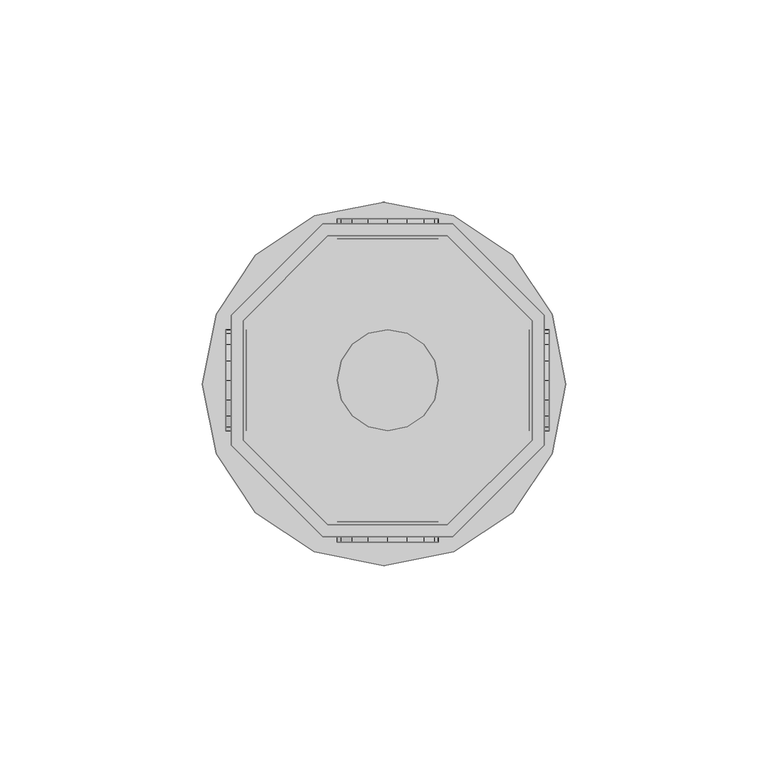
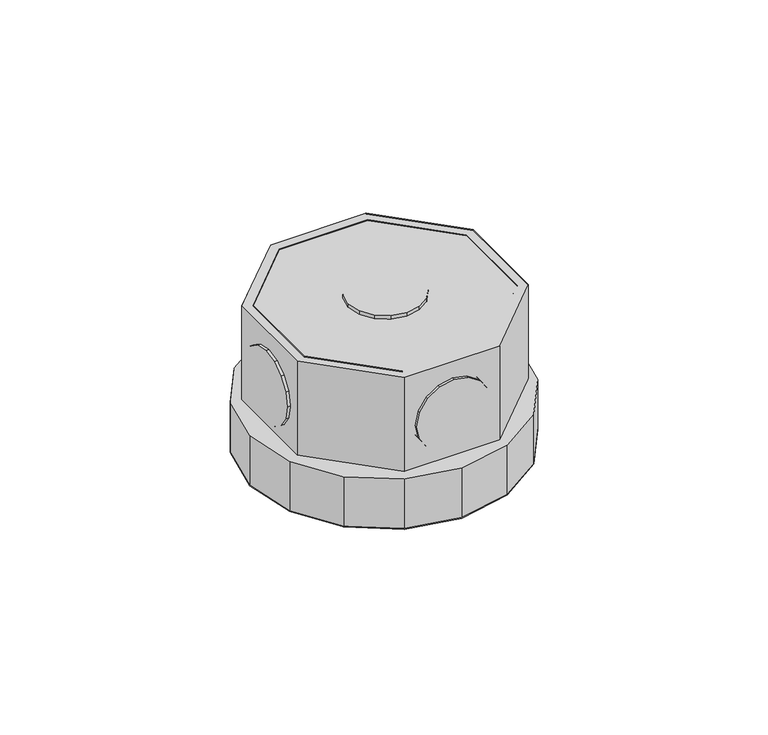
"""IFC4 building model written with IfcOpenShell, lengths in millimetres: light fixture geometry,  212680 :  212680."""

import ifcopenshell
import ifcopenshell.guid

model = None  # the IFC model being written
_history = None  # IfcOwnerHistory: only IFC2X3 demands one
_inside = {}  # id of a spatial element -> (the spatial element, [elements in it])
_under = {}  # id of a project, library or spatial element -> (it, [spatial elements below it])
_declared = {}  # id of a project -> (the project, [libraries it declares])
_typed = {}  # id of a type object -> (the type object, [elements of that type])
_made_of = {}  # id of a material, layer set ... -> (it, [elements and type objects made of it])


def new_model(schema):
    """Start an empty IFC model of exactly this schema.

    Asked for "IFC4X3", IfcOpenShell would pick the latest addendum, in which some entities
    have other attributes; the version numbers below select the first issue.
    IFC2X3 requires an IfcOwnerHistory on every rooted entity: one is made here for all.
    """
    global model, _history
    if schema == "IFC4X3":
        model = ifcopenshell.file(schema_version=(4, 3, 0, 0))
    else:
        model = ifcopenshell.file(schema=schema)
    _inside.clear()
    _under.clear()
    _declared.clear()
    _typed.clear()
    _made_of.clear()
    _history = None
    if model.schema == "IFC2X3":
        org = make("IfcOrganization", Name="unknown")
        user = make(
            "IfcPersonAndOrganization",
            ThePerson=make("IfcPerson", FamilyName="unknown"),
            TheOrganization=org,
        )
        app = make(
            "IfcApplication",
            ApplicationDeveloper=org,
            Version="unknown",
            ApplicationFullName="unknown",
            ApplicationIdentifier="unknown",
        )
        _history = make(
            "IfcOwnerHistory",
            OwningUser=user,
            OwningApplication=app,
            ChangeAction="ADDED",
            CreationDate=0,
        )
    return model


def make(cls, **values):
    """One entity of the class cls with the attributes given. An attribute that is None is left unset."""
    return model.create_entity(
        cls, **{name: value for name, value in values.items() if value is not None}
    )


def rooted(cls, **values):
    """An entity with a GlobalId (a new one), such as an element, a storey or a relation."""
    return make(cls, GlobalId=ifcopenshell.guid.new(), OwnerHistory=_history, **values)


def si_unit(unit_type, name, prefix=None):
    """IfcSIUnit, for example si_unit("LENGTHUNIT", "METRE", prefix="MILLI")."""
    return make("IfcSIUnit", UnitType=unit_type, Prefix=prefix, Name=name)


def assignment(units):
    """IfcUnitAssignment: the units of a project."""
    return None if units is None else make("IfcUnitAssignment", Units=units)


def point(xyz):
    """IfcCartesianPoint."""
    return None if xyz is None else make("IfcCartesianPoint", Coordinates=xyz)


def direction(xyz):
    """IfcDirection."""
    return None if xyz is None else make("IfcDirection", DirectionRatios=xyz)


def frame(location, z_axis=None, x_axis=None):
    """IfcAxis2Placement3D, a coordinate frame: its origin and axes. An axis left out is left unset."""
    return make(
        "IfcAxis2Placement3D",
        Location=point(location),
        Axis=direction(z_axis),
        RefDirection=direction(x_axis),
    )


def origin():
    """The frame at (0, 0, 0) with its axes left unset."""
    return frame((0.0, 0.0, 0.0))


def place(relative_to, where):
    """IfcLocalPlacement: puts the frame where relative to a parent placement (None: the world)."""
    return make(
        "IfcLocalPlacement", PlacementRelTo=relative_to, RelativePlacement=where
    )


def context(
    kind, dimensions, precision=None, world=None, true_north=None, identifier=None
):
    """IfcGeometricRepresentationContext, for example the 3D "Model" context."""
    return make(
        "IfcGeometricRepresentationContext",
        ContextIdentifier=identifier,
        ContextType=kind,
        CoordinateSpaceDimension=dimensions,
        Precision=precision,
        WorldCoordinateSystem=world,
        TrueNorth=true_north,
    )


def project(units=None, contexts=None):
    """IfcProject with its units and contexts."""
    return rooted(
        "IfcProject",
        Name="project",
        RepresentationContexts=contexts,
        UnitsInContext=assignment(units),
    )


def spatial(cls, under=None, at=None, **own):
    """A site, building, storey or space (cls), placed at a placement, below another one or the project."""
    s = rooted(cls, ObjectPlacement=at, **own)
    if under is not None:
        _under.setdefault(under.id(), (under, []))[1].append(s)
    return s


def point_list(points):
    """IfcCartesianPointList2D or 3D."""
    cls = (
        "IfcCartesianPointList2D" if len(points[0]) == 2 else "IfcCartesianPointList3D"
    )
    return make(cls, CoordList=points)


def triangles(points, corners, closed=None, point_numbers=None):
    """IfcTriangulatedFaceSet: each triangle names its three corners, points numbered from 1."""
    return make(
        "IfcTriangulatedFaceSet",
        Coordinates=point_list(points),
        Closed=closed,
        CoordIndex=corners,
        PnIndex=point_numbers,
    )


def shape(context_of_items, identifier, shape_type, items):
    """IfcShapeRepresentation: the items that make up one representation, for example the "Body"."""
    return make(
        "IfcShapeRepresentation",
        ContextOfItems=context_of_items,
        RepresentationIdentifier=identifier,
        RepresentationType=shape_type,
        Items=items,
    )


def source(mapping_origin, context_of_items, identifier, shape_type, items):
    """IfcRepresentationMap: a shape defined once, which mapped items show again and again."""
    return make(
        "IfcRepresentationMap",
        MappingOrigin=mapping_origin,
        MappedRepresentation=shape(context_of_items, identifier, shape_type, items),
    )


def transform(
    local_origin,
    x_axis=None,
    y_axis=None,
    z_axis=None,
    scale=None,
    scale2=None,
    scale3=None,
    uniform=True,
):
    """IfcCartesianTransformationOperator3D, or its non-uniform kind. x_axis, y_axis, z_axis: its Axis1, 2, 3."""
    if uniform:
        return make(
            "IfcCartesianTransformationOperator3D",
            Axis1=direction(x_axis),
            Axis2=direction(y_axis),
            LocalOrigin=point(local_origin),
            Scale=scale,
            Axis3=direction(z_axis),
        )
    return make(
        "IfcCartesianTransformationOperator3DnonUniform",
        Axis1=direction(x_axis),
        Axis2=direction(y_axis),
        LocalOrigin=point(local_origin),
        Scale=scale,
        Axis3=direction(z_axis),
        Scale2=scale2,
        Scale3=scale3,
    )


def mapped(mapping_source, mapping_target):
    """IfcMappedItem: shows the shape of a source again, moved by a transform."""
    return make(
        "IfcMappedItem", MappingSource=mapping_source, MappingTarget=mapping_target
    )


def made_of(thing, what):
    """Note that an element or type object is made of a material, layer set ...; save() writes the relation."""
    if what is not None:
        _made_of.setdefault(what.id(), (what, []))[1].append(thing)
    return thing


def element(
    cls,
    number,
    at=None,
    inside=None,
    cuts=None,
    type_object=None,
    material=None,
    context=None,
    identifier="Body",
    shape_type=None,
    held_by="IfcProductDefinitionShape",
    body=None,
    shapes=None,
    **own,
):
    """One element of the class cls, such as IfcWall. Its Tag is "e" and its number.

    at: its placement. inside: the storey or other place that contains it. cuts: it is an
    opening in that element (IfcRelVoidsElement). A single representation is given by context,
    identifier, shape_type and body (its items); several are given by shapes. held_by: the class
    of the entity that holds the representations. save() writes the other relations.
    """
    e = rooted(cls, Tag="e%d" % number, ObjectPlacement=at, **own)
    if body is not None:
        shapes = [shape(context, identifier, shape_type, body)]
    if shapes is not None:
        e.Representation = make(held_by, Representations=shapes)
    if inside is not None:
        _inside.setdefault(inside.id(), (inside, []))[1].append(e)
    if cuts is not None:
        rooted(
            "IfcRelVoidsElement", RelatingBuildingElement=cuts, RelatedOpeningElement=e
        )
    if type_object is not None:
        _typed.setdefault(type_object.id(), (type_object, []))[1].append(e)
    return made_of(e, material)


def aggregate(whole, parts):
    """IfcRelAggregates: a whole, such as a stair, and the parts it consists of."""
    return rooted("IfcRelAggregates", RelatingObject=whole, RelatedObjects=parts)


def save(model, path):
    """Write the relations noted so far, then the file.

    IfcRelAggregates (storeys below a building ...), IfcRelContainedInSpatialStructure (elements
    in a storey), IfcRelDefinesByType, IfcRelAssociatesMaterial and IfcRelDeclares: one each for
    every whole, place, type object, material and project.
    """
    for whole, parts in _under.values():
        aggregate(whole, parts)
    for where, things in _inside.values():
        rooted(
            "IfcRelContainedInSpatialStructure",
            RelatedElements=things,
            RelatingStructure=where,
        )
    for kind, things in _typed.values():
        rooted("IfcRelDefinesByType", RelatedObjects=things, RelatingType=kind)
    for what, things in _made_of.values():
        rooted("IfcRelAssociatesMaterial", RelatedObjects=things, RelatingMaterial=what)
    for by, libraries in _declared.values():
        rooted("IfcRelDeclares", RelatingContext=by, RelatedDefinitions=libraries)
    model.write(path)


def light_fixture_5db41efc(model_context):
    return source(origin(), model_context, "Body", "Tessellation", [
        triangles([(31728.4005432, 11732.1001648, 2924.5999741), (31728.4005432, 11761.6995209, 2975.400071), (31728.4005432, 11761.6995209, 2924.5999741), (31728.4005432, 11732.1001648, 2975.400071), (31653.9004395, 11730.900238, 2924.5999741), (31653.9004395, 11762.9994415, 2975.400071), (31653.9004395, 11762.9994415, 2924.5999741), (31653.9004395, 11730.900238, 2975.400071), (31707.3994995, 11782.7005646, 2975.400071), (31707.3994995, 11782.7005646, 2924.5999741), (31676.599054, 11708.2004608, 2924.5999741), (31676.599054, 11708.2004608, 2975.400071), (31677.7989807, 11782.7005646, 2975.400071), (31677.7989807, 11782.7005646, 2924.5999741), (31708.6994202, 11708.2004608, 2924.5999741), (31708.6994202, 11708.2004608, 2975.400071), (31656.9002563, 11761.6995209, 2975.400071), (31656.9002563, 11761.6995209, 2924.5999741), (31731.4003601, 11730.900238, 2924.5999741), (31731.4003601, 11730.900238, 2975.400071), (31656.9002563, 11732.1001648, 2924.5999741), (31656.9002563, 11732.1001648, 2975.400071), (31731.4003601, 11762.9994415, 2975.400071), (31731.4003601, 11762.9994415, 2924.5999741), (31677.7989807, 11711.2002777, 2924.5999741), (31677.7989807, 11711.2002777, 2975.400071), (31708.6994202, 11785.7003815, 2975.400071), (31708.6994202, 11785.7003815, 2924.5999741), (31676.599054, 11785.7003815, 2975.400071), (31707.3994995, 11711.2002777, 2975.400071), (31707.3994995, 11711.2002777, 2924.5999741), (31676.599054, 11785.7003815, 2924.5999741), (31677.7989807, 11782.7005646, 2972.3999634), (31656.9002563, 11761.6995209, 2972.3999634), (31656.9002563, 11732.1001648, 2972.3999634), (31677.7989807, 11711.2002777, 2972.3999634), (31707.3994995, 11711.2002777, 2972.3999634), (31728.4005432, 11732.1001648, 2972.3999634), (31728.4005432, 11761.6995209, 2972.3999634), (31707.3994995, 11782.7005646, 2972.3999634), (31708.6994202, 11785.7003815, 2942.4000504), (31731.4003601, 11762.9994415, 2942.4000504), (31731.4003601, 11730.900238, 2942.4000504), (31708.6994202, 11708.2004608, 2942.4000504), (31676.599054, 11708.2004608, 2942.4000504), (31653.9004395, 11730.900238, 2942.4000504), (31653.9004395, 11762.9994415, 2942.4000504), (31676.599054, 11785.7003815, 2942.4000504), (31650.2006653, 11763.2994232, 2942.4000504), (31674.4991821, 11787.6002655, 2942.4000504), (31659.9000732, 11777.8996948, 2942.4000504), (31691.7004578, 11791.000058, 2942.4000504), (31708.9994019, 11787.6002655, 2942.4000504), (31723.6008362, 11777.8996948, 2942.4000504), (31733.3002441, 11763.2994232, 2942.4000504), (31736.7000366, 11746.0004791, 2942.4000504), (31733.3002441, 11728.8003662, 2942.4000504), (31708.9994019, 11704.4995239, 2942.4000504), (31723.6008362, 11714.2000946, 2942.4000504), (31646.7008789, 11746.0004791, 2942.4000504), (31650.2006653, 11728.8003662, 2942.4000504), (31659.9000732, 11714.2000946, 2942.4000504), (31674.4991821, 11704.4995239, 2942.4000504), (31691.7004578, 11700.9997375, 2942.4000504), (31674.4991821, 11787.6002655, 2924.5999741), (31650.2006653, 11763.2994232, 2924.5999741), (31659.9000732, 11777.8996948, 2924.5999741), (31691.7004578, 11791.000058, 2924.5999741), (31708.9994019, 11787.6002655, 2924.5999741), (31723.6008362, 11777.8996948, 2924.5999741), (31733.3002441, 11763.2994232, 2924.5999741), (31736.7000366, 11746.0004791, 2924.5999741), (31733.3002441, 11728.8003662, 2924.5999741), (31708.9994019, 11704.4995239, 2924.5999741), (31723.6008362, 11714.2000946, 2924.5999741), (31646.7008789, 11746.0004791, 2924.5999741), (31650.2006653, 11728.8003662, 2924.5999741), (31659.9000732, 11714.2000946, 2924.5999741), (31674.4991821, 11704.4995239, 2924.5999741), (31691.7004578, 11700.9997375, 2924.5999741), (31732.6002869, 11758.4997162, 2952.6000092), (31732.6002869, 11751.7001312, 2945.9001274), (31732.6002869, 11755.799881, 2948.5999626), (31732.6002869, 11759.3996613, 2957.4000069), (31732.6002869, 11746.9004242, 2944.8998978), (31732.6002869, 11758.4997162, 2962.2000046), (31732.6002869, 11742.0995544, 2945.9001274), (31732.6002869, 11755.799881, 2966.2000511), (31732.6002869, 11738.0997986, 2948.5999626), (31732.6002869, 11751.7001312, 2968.8998863), (31732.6002869, 11735.3999634, 2952.6000092), (31732.6002869, 11746.9004242, 2969.900116), (31732.6002869, 11734.4000244, 2957.4000069), (31732.6002869, 11742.0995544, 2968.8998863), (31732.6002869, 11735.3999634, 2962.2000046), (31732.6002869, 11738.0997986, 2966.2000511), (31727.600592, 11751.7001312, 2945.9001274), (31727.600592, 11758.4997162, 2952.6000092), (31727.600592, 11755.799881, 2948.5999626), (31727.600592, 11746.9004242, 2944.8998978), (31727.600592, 11759.3996613, 2957.4000069), (31727.600592, 11742.0995544, 2945.9001274), (31727.600592, 11758.4997162, 2962.2000046), (31727.600592, 11738.0997986, 2948.5999626), (31727.600592, 11755.799881, 2966.2000511), (31727.600592, 11751.7001312, 2968.8998863), (31727.600592, 11735.3999634, 2952.6000092), (31727.600592, 11746.9004242, 2969.900116), (31727.600592, 11734.4000244, 2957.4000069), (31727.600592, 11742.0995544, 2968.8998863), (31727.600592, 11735.3999634, 2962.2000046), (31727.600592, 11738.0997986, 2966.2000511), (31657.6002136, 11758.4997162, 2952.6000092), (31657.6002136, 11751.7001312, 2945.9001274), (31657.6002136, 11755.799881, 2948.5999626), (31657.6002136, 11759.3996613, 2957.4000069), (31657.6002136, 11746.9004242, 2944.8998978), (31657.6002136, 11758.4997162, 2962.2000046), (31657.6002136, 11742.0995544, 2945.9001274), (31657.6002136, 11755.799881, 2966.2000511), (31657.6002136, 11738.0997986, 2948.5999626), (31657.6002136, 11751.7001312, 2968.8998863), (31657.6002136, 11735.3999634, 2952.6000092), (31657.6002136, 11746.9004242, 2969.900116), (31657.6002136, 11734.4000244, 2957.4000069), (31657.6002136, 11742.0995544, 2968.8998863), (31657.6002136, 11735.3999634, 2962.2000046), (31657.6002136, 11738.0997986, 2966.2000511), (31652.6005188, 11751.7001312, 2945.9001274), (31652.6005188, 11758.4997162, 2952.6000092), (31652.6005188, 11755.799881, 2948.5999626), (31652.6005188, 11746.9004242, 2944.8998978), (31652.6005188, 11759.3996613, 2957.4000069), (31652.6005188, 11742.0995544, 2945.9001274), (31652.6005188, 11758.4997162, 2962.2000046), (31652.6005188, 11738.0997986, 2948.5999626), (31652.6005188, 11755.799881, 2966.2000511), (31652.6005188, 11751.7001312, 2968.8998863), (31652.6005188, 11735.3999634, 2952.6000092), (31652.6005188, 11746.9004242, 2969.900116), (31652.6005188, 11734.4000244, 2957.4000069), (31652.6005188, 11742.0995544, 2968.8998863), (31652.6005188, 11735.3999634, 2962.2000046), (31652.6005188, 11738.0997986, 2966.2000511), (31687.8006958, 11781.8994507, 2945.9001274), (31681.1011047, 11781.8994507, 2952.6000092), (31683.8009399, 11781.8994507, 2948.5999626), (31692.6004028, 11781.8994507, 2944.8998978), (31680.0988403, 11781.8994507, 2957.4000069), (31697.4001099, 11781.8994507, 2945.9001274), (31681.1011047, 11781.8994507, 2962.2000046), (31701.4998596, 11781.8994507, 2948.5999626), (31683.8009399, 11781.8994507, 2966.2000511), (31687.8006958, 11781.8994507, 2968.8998863), (31704.1996948, 11781.8994507, 2952.6000092), (31692.6004028, 11781.8994507, 2969.900116), (31705.0996399, 11781.8994507, 2957.4000069), (31697.4001099, 11781.8994507, 2968.8998863), (31704.1996948, 11781.8994507, 2962.2000046), (31701.4998596, 11781.8994507, 2966.2000511), (31681.1011047, 11786.9003082, 2952.6000092), (31687.8006958, 11786.9003082, 2945.9001274), (31683.8009399, 11786.9003082, 2948.5999626), (31680.0988403, 11786.9003082, 2957.4000069), (31692.6004028, 11786.9003082, 2944.8998978), (31681.1011047, 11786.9003082, 2962.2000046), (31697.4001099, 11786.9003082, 2945.9001274), (31683.8009399, 11786.9003082, 2966.2000511), (31701.4998596, 11786.9003082, 2948.5999626), (31687.8006958, 11786.9003082, 2968.8998863), (31704.1996948, 11786.9003082, 2952.6000092), (31692.6004028, 11786.9003082, 2969.900116), (31705.0996399, 11786.9003082, 2957.4000069), (31697.4001099, 11786.9003082, 2968.8998863), (31704.1996948, 11786.9003082, 2962.2000046), (31701.4998596, 11786.9003082, 2966.2000511), (31687.8006958, 11706.9005402, 2945.9001274), (31681.1011047, 11706.9005402, 2952.6000092), (31683.8009399, 11706.9005402, 2948.5999626), (31692.6004028, 11706.9005402, 2944.8998978), (31680.0988403, 11706.9005402, 2957.4000069), (31697.4001099, 11706.9005402, 2945.9001274), (31681.1011047, 11706.9005402, 2962.2000046), (31701.4998596, 11706.9005402, 2948.5999626), (31683.8009399, 11706.9005402, 2966.2000511), (31687.8006958, 11706.9005402, 2968.8998863), (31704.1996948, 11706.9005402, 2952.6000092), (31692.6004028, 11706.9005402, 2969.900116), (31705.0996399, 11706.9005402, 2957.4000069), (31697.4001099, 11706.9005402, 2968.8998863), (31704.1996948, 11706.9005402, 2962.2000046), (31701.4998596, 11706.9005402, 2966.2000511), (31681.1011047, 11711.900235, 2952.6000092), (31687.8006958, 11711.900235, 2945.9001274), (31683.8009399, 11711.900235, 2948.5999626), (31680.0988403, 11711.900235, 2957.4000069), (31692.6004028, 11711.900235, 2944.8998978), (31681.1011047, 11711.900235, 2962.2000046), (31697.4001099, 11711.900235, 2945.9001274), (31683.8009399, 11711.900235, 2966.2000511), (31701.4998596, 11711.900235, 2948.5999626), (31687.8006958, 11711.900235, 2968.8998863), (31704.1996948, 11711.900235, 2952.6000092), (31692.6004028, 11711.900235, 2969.900116), (31705.0996399, 11711.900235, 2957.4000069), (31697.4001099, 11711.900235, 2968.8998863), (31704.1996948, 11711.900235, 2962.2000046), (31701.4998596, 11711.900235, 2966.2000511), (31681.1011047, 11751.7001312, 2976.9999733), (31687.8006958, 11758.4997162, 2976.9999733), (31683.8009399, 11755.799881, 2976.9999733), (31692.6004028, 11759.3996613, 2976.9999733), (31680.0988403, 11746.9004242, 2976.9999733), (31697.4001099, 11758.4997162, 2976.9999733), (31681.1011047, 11742.0995544, 2976.9999733), (31701.4998596, 11755.799881, 2976.9999733), (31683.8009399, 11738.0997986, 2976.9999733), (31704.1996948, 11751.7001312, 2976.9999733), (31687.8006958, 11735.3999634, 2976.9999733), (31705.0996399, 11746.9004242, 2976.9999733), (31692.6004028, 11734.4000244, 2976.9999733), (31704.1996948, 11742.0995544, 2976.9999733), (31697.4001099, 11735.3999634, 2976.9999733), (31701.4998596, 11738.0997986, 2976.9999733), (31687.8006958, 11758.4997162, 2971.9999878), (31681.1011047, 11751.7001312, 2971.9999878), (31683.8009399, 11755.799881, 2971.9999878), (31692.6004028, 11759.3996613, 2971.9999878), (31680.0988403, 11746.9004242, 2971.9999878), (31697.4001099, 11758.4997162, 2971.9999878), (31681.1011047, 11742.0995544, 2971.9999878), (31701.4998596, 11755.799881, 2971.9999878), (31683.8009399, 11738.0997986, 2971.9999878), (31704.1996948, 11751.7001312, 2971.9999878), (31687.8006958, 11735.3999634, 2971.9999878), (31705.0996399, 11746.9004242, 2971.9999878), (31692.6004028, 11734.4000244, 2971.9999878), (31704.1996948, 11742.0995544, 2971.9999878), (31697.4001099, 11735.3999634, 2971.9999878), (31701.4998596, 11738.0997986, 2971.9999878)], [[1, 2, 3], [2, 1, 4], [5, 6, 7], [6, 5, 8], [3, 9, 10], [9, 3, 2], [11, 8, 5], [8, 11, 12], [10, 13, 14], [13, 10, 9], [15, 12, 11], [12, 15, 16], [14, 17, 18], [17, 14, 13], [19, 16, 15], [16, 19, 20], [17, 21, 18], [21, 17, 22], [23, 19, 24], [19, 23, 20], [22, 25, 21], [25, 22, 26], [27, 24, 28], [24, 27, 23], [6, 13, 29], [29, 13, 27], [27, 13, 9], [27, 9, 23], [23, 9, 2], [23, 2, 4], [23, 4, 20], [20, 4, 30], [8, 17, 6], [6, 17, 13], [17, 8, 22], [12, 22, 8], [22, 12, 26], [30, 26, 12], [16, 30, 12], [20, 30, 16], [30, 1, 31], [1, 30, 4], [6, 32, 7], [32, 6, 29], [32, 14, 7], [28, 14, 32], [14, 28, 10], [24, 10, 28], [10, 24, 3], [1, 3, 24], [19, 1, 24], [31, 1, 19], [7, 18, 5], [14, 18, 7], [5, 18, 21], [5, 21, 11], [11, 21, 25], [11, 25, 31], [11, 31, 15], [15, 31, 19], [26, 31, 25], [31, 26, 30], [29, 28, 32], [28, 29, 27], [17, 33, 34], [33, 17, 13], [35, 17, 34], [17, 35, 22], [36, 22, 35], [22, 36, 26], [37, 26, 36], [26, 37, 30], [38, 30, 37], [30, 38, 4], [2, 38, 39], [38, 2, 4], [17, 9, 13], [9, 17, 22], [9, 22, 2], [2, 22, 26], [2, 26, 4], [4, 26, 30], [13, 40, 33], [40, 13, 9], [40, 34, 33], [35, 34, 40], [35, 40, 39], [35, 39, 36], [36, 39, 38], [36, 38, 37], [9, 39, 40], [39, 9, 2], [24, 41, 28], [41, 24, 42], [19, 42, 24], [42, 19, 43], [44, 19, 15], [19, 44, 43], [45, 15, 11], [15, 45, 44], [46, 11, 5], [11, 46, 45], [47, 5, 7], [5, 47, 46], [32, 47, 7], [47, 32, 48], [28, 48, 32], [48, 28, 41], [49, 50, 51], [48, 50, 49], [50, 48, 52], [41, 52, 48], [52, 41, 53], [53, 41, 54], [42, 54, 41], [54, 42, 55], [55, 42, 43], [55, 43, 56], [56, 43, 57], [57, 43, 44], [57, 44, 58], [57, 58, 59], [47, 49, 60], [49, 47, 48], [47, 60, 46], [61, 46, 60], [46, 61, 62], [46, 62, 45], [45, 62, 63], [44, 45, 63], [44, 63, 64], [44, 64, 58], [65, 66, 67], [66, 65, 32], [68, 32, 65], [32, 68, 28], [28, 68, 69], [70, 28, 69], [28, 70, 24], [71, 24, 70], [19, 24, 71], [19, 71, 72], [73, 19, 72], [19, 73, 15], [74, 15, 73], [74, 73, 75], [76, 66, 7], [32, 7, 66], [5, 76, 7], [76, 5, 77], [77, 5, 78], [11, 78, 5], [78, 11, 79], [79, 11, 15], [79, 15, 80], [80, 15, 74], [57, 75, 73], [75, 57, 59], [56, 73, 72], [73, 56, 57], [55, 72, 71], [72, 55, 56], [54, 71, 70], [71, 54, 55], [53, 70, 69], [70, 53, 54], [52, 69, 68], [69, 52, 53], [50, 68, 65], [68, 50, 52], [51, 65, 67], [65, 51, 50], [66, 51, 67], [51, 66, 49], [76, 49, 66], [49, 76, 60], [77, 60, 76], [60, 77, 61], [78, 61, 77], [61, 78, 62], [79, 62, 78], [62, 79, 63], [80, 63, 79], [63, 80, 64], [75, 58, 74], [58, 75, 59], [74, 64, 80], [64, 74, 58], [81, 82, 83], [82, 81, 84], [85, 82, 84], [85, 84, 86], [87, 85, 86], [87, 86, 88], [87, 88, 89], [89, 88, 90], [89, 90, 91], [91, 90, 92], [91, 92, 93], [93, 92, 94], [93, 94, 95], [95, 94, 96], [97, 98, 99], [98, 97, 100], [101, 98, 100], [101, 100, 102], [103, 101, 102], [103, 102, 104], [103, 104, 105], [105, 104, 106], [106, 104, 107], [106, 107, 108], [108, 107, 109], [108, 109, 110], [110, 109, 111], [110, 111, 112], [87, 104, 102], [104, 87, 89], [85, 102, 100], [102, 85, 87], [82, 100, 97], [100, 82, 85], [83, 97, 99], [97, 83, 82], [98, 83, 99], [83, 98, 81], [101, 81, 98], [81, 101, 84], [103, 84, 101], [84, 103, 86], [105, 86, 103], [86, 105, 88], [106, 88, 105], [88, 106, 90], [108, 90, 106], [90, 108, 92], [110, 92, 108], [92, 110, 94], [112, 94, 110], [94, 112, 96], [95, 112, 111], [112, 95, 96], [93, 111, 109], [111, 93, 95], [89, 107, 104], [107, 89, 91], [91, 109, 107], [109, 91, 93], [113, 114, 115], [114, 113, 116], [117, 114, 116], [117, 116, 118], [119, 117, 118], [119, 118, 120], [119, 120, 121], [121, 120, 122], [121, 122, 123], [123, 122, 124], [123, 124, 125], [125, 124, 126], [125, 126, 127], [127, 126, 128], [129, 130, 131], [130, 129, 132], [133, 130, 132], [133, 132, 134], [135, 133, 134], [135, 134, 136], [135, 136, 137], [137, 136, 138], [138, 136, 139], [138, 139, 140], [140, 139, 141], [140, 141, 142], [142, 141, 143], [142, 143, 144], [119, 136, 134], [136, 119, 121], [117, 134, 132], [134, 117, 119], [114, 132, 129], [132, 114, 117], [115, 129, 131], [129, 115, 114], [130, 115, 131], [115, 130, 113], [133, 113, 130], [113, 133, 116], [135, 116, 133], [116, 135, 118], [137, 118, 135], [118, 137, 120], [138, 120, 137], [120, 138, 122], [140, 122, 138], [122, 140, 124], [142, 124, 140], [124, 142, 126], [144, 126, 142], [126, 144, 128], [127, 144, 143], [144, 127, 128], [125, 143, 141], [143, 125, 127], [121, 139, 136], [139, 121, 123], [123, 141, 139], [141, 123, 125], [145, 146, 147], [146, 145, 148], [149, 146, 148], [149, 148, 150], [151, 149, 150], [151, 150, 152], [151, 152, 153], [153, 152, 154], [154, 152, 155], [154, 155, 156], [156, 155, 157], [156, 157, 158], [158, 157, 159], [158, 159, 160], [161, 162, 163], [162, 161, 164], [165, 162, 164], [165, 164, 166], [167, 165, 166], [167, 166, 168], [169, 167, 168], [169, 168, 170], [169, 170, 171], [171, 170, 172], [171, 172, 173], [173, 172, 174], [173, 174, 175], [175, 174, 176], [158, 176, 174], [176, 158, 160], [156, 174, 172], [174, 156, 158], [154, 172, 170], [172, 154, 156], [153, 170, 168], [170, 153, 154], [151, 168, 166], [168, 151, 153], [149, 166, 164], [166, 149, 151], [146, 164, 161], [164, 146, 149], [147, 161, 163], [161, 147, 146], [162, 147, 163], [147, 162, 145], [165, 145, 162], [145, 165, 148], [167, 148, 165], [148, 167, 150], [169, 150, 167], [150, 169, 152], [171, 152, 169], [152, 171, 155], [173, 155, 171], [155, 173, 157], [176, 159, 175], [159, 176, 160], [175, 157, 173], [157, 175, 159], [177, 178, 179], [178, 177, 180], [181, 178, 180], [181, 180, 182], [183, 181, 182], [183, 182, 184], [183, 184, 185], [185, 184, 186], [186, 184, 187], [186, 187, 188], [188, 187, 189], [188, 189, 190], [190, 189, 191], [190, 191, 192], [193, 194, 195], [194, 193, 196], [197, 194, 196], [197, 196, 198], [199, 197, 198], [199, 198, 200], [201, 199, 200], [201, 200, 202], [201, 202, 203], [203, 202, 204], [203, 204, 205], [205, 204, 206], [205, 206, 207], [207, 206, 208], [190, 208, 206], [208, 190, 192], [188, 206, 204], [206, 188, 190], [186, 204, 202], [204, 186, 188], [185, 202, 200], [202, 185, 186], [183, 200, 198], [200, 183, 185], [181, 198, 196], [198, 181, 183], [178, 196, 193], [196, 178, 181], [179, 193, 195], [193, 179, 178], [194, 179, 195], [179, 194, 177], [197, 177, 194], [177, 197, 180], [199, 180, 197], [180, 199, 182], [201, 182, 199], [182, 201, 184], [203, 184, 201], [184, 203, 187], [205, 187, 203], [187, 205, 189], [208, 191, 207], [191, 208, 192], [207, 189, 205], [189, 207, 191], [209, 210, 211], [212, 210, 209], [212, 209, 213], [214, 212, 213], [214, 213, 215], [216, 214, 215], [216, 215, 217], [216, 217, 218], [218, 217, 219], [218, 219, 220], [220, 219, 221], [220, 221, 222], [222, 221, 223], [222, 223, 224], [225, 226, 227], [226, 225, 228], [229, 226, 228], [229, 228, 230], [231, 229, 230], [231, 230, 232], [231, 232, 233], [233, 232, 234], [233, 234, 235], [235, 234, 236], [235, 236, 237], [237, 236, 238], [237, 238, 239], [239, 238, 240], [222, 240, 238], [240, 222, 224], [220, 238, 236], [238, 220, 222], [218, 236, 234], [236, 218, 220], [216, 234, 232], [234, 216, 218], [214, 232, 230], [232, 214, 216], [212, 230, 228], [230, 212, 214], [210, 228, 225], [228, 210, 212], [211, 225, 227], [225, 211, 210], [226, 211, 227], [211, 226, 209], [229, 209, 226], [209, 229, 213], [231, 213, 229], [213, 231, 215], [233, 215, 231], [215, 233, 217], [235, 217, 233], [217, 235, 219], [237, 219, 235], [219, 237, 221], [240, 223, 239], [223, 240, 224], [239, 221, 237], [221, 239, 223]], closed=False),
    ])


if __name__ == "__main__":
    model = new_model("IFC4")
    model_context = context("Model", 3, world=origin())
    ifc_project = project(units=[si_unit("LENGTHUNIT", "METRE", prefix="MILLI")], contexts=[model_context])
    site = spatial("IfcSite", under=ifc_project)
    building = spatial("IfcBuilding", under=site)
    placement = place(None, origin())
    light_fixture_shape = light_fixture_5db41efc(model_context)
    element("IfcLightFixture", 1, ObjectType=" 212680 :  212680", at=placement, inside=building, context=model_context, shape_type="MappedRepresentation", body=[
        mapped(light_fixture_shape, transform((0.0, 0.0, 0.0), x_axis=(1.0, 0.0, 0.0), y_axis=(0.0, 1.0, 0.0), z_axis=(0.0, 0.0, 1.0))),
    ])
    save(model, "model.ifc")
